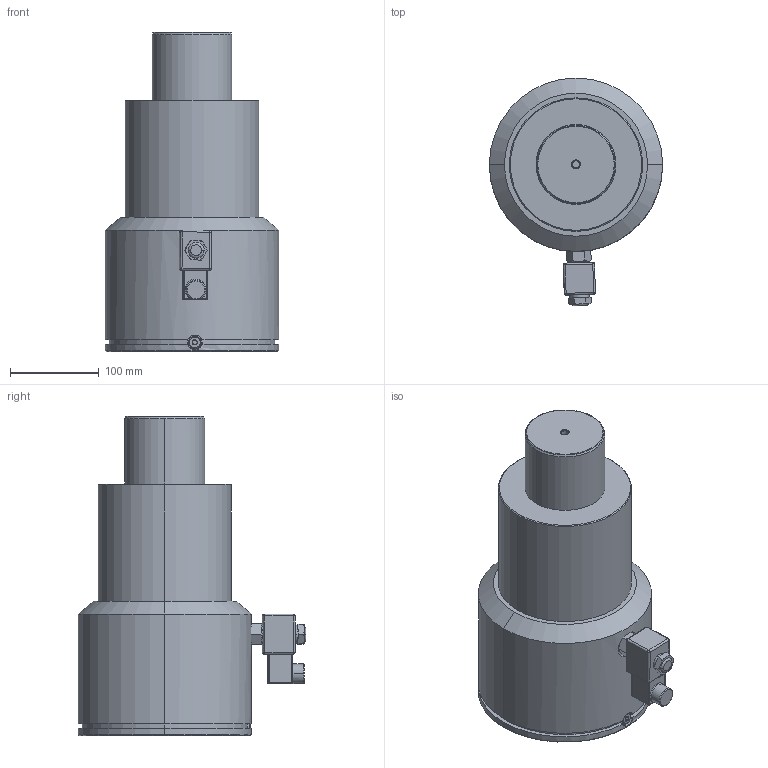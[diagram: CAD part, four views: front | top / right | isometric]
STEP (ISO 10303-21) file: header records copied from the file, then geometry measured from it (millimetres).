
FILE_DESCRIPTION(('CATIA V5 STEP Exchange'),'2;1');
FILE_NAME('W:\CATALOGO GENERAL 2015\CATIA\CILINDRO PARADA MONOCUERPO\TPCM7500x75.stp','2023-11-30T08:35:11+00:00',('none'),('none'),'CATIA Version 5 Release 17 (IN-10)','CATIA V5 STEP AP203','none');
FILE_SCHEMA(('CONFIG_CONTROL_DESIGN'));
Length unit declared in the file: millimetre
Products named in the file (1): Stop-cylinder monolitic
Assembly tree (5 placements, depth 2):
  Stop-cylinder monolitic
    #56
    #1212
    #1364
    #1678
    #5220
Bounding box: 195 x 256.31 x 359 mm (x, y, z)
Volume: 7325336.6 mm3; surface area: 304920 mm2
Topology: 9 solids, 9 shells, 250 faces, 552 edges, 311 vertices
Faces by surface type: plane 67, cylinder 60, cone 58, torus 33, revolution 18, sphere 12, bspline 2
Entity records: 6957 total; most frequent: CARTESIAN_POINT 1896, ORIENTED_EDGE 1060, DIRECTION 843, EDGE_CURVE 530, AXIS2_PLACEMENT_3D 436, VERTEX_POINT 311, EDGE_LOOP 263, ADVANCED_FACE 250
